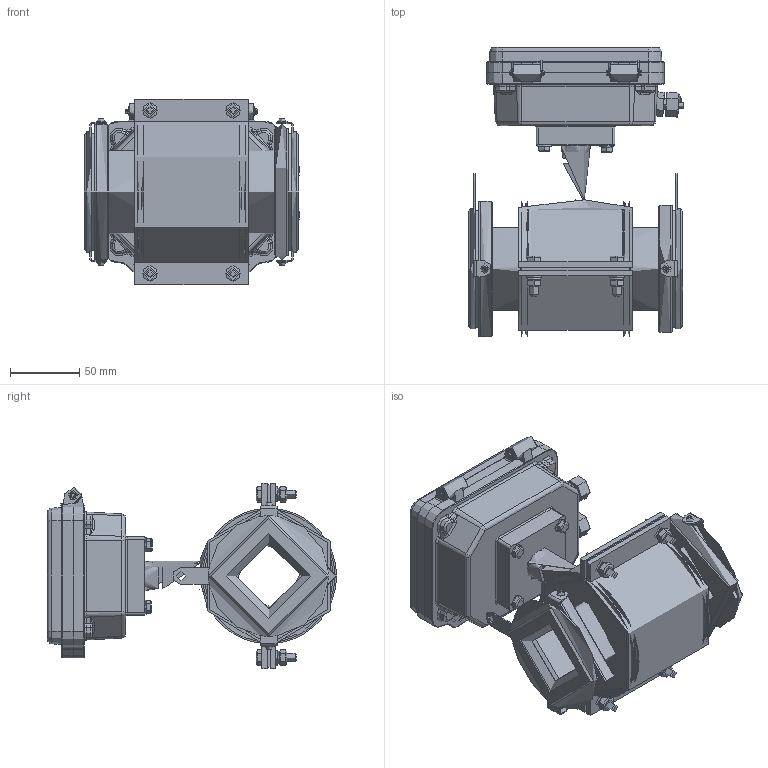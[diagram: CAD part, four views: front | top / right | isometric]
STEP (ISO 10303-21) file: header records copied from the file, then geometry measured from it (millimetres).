
FILE_DESCRIPTION(('STEP AP214'), '1');
FILE_NAME('Âçëåò ÝÌ ÏÐÎÔÈ DN50 Ñýíäâè÷', '', ('UNSPECIFIED'), ('UNSPECIFIED'), 'ASCON STEP Converter 1.6', 'ASCON Math Kernel', '');
FILE_SCHEMA(('AUTOMOTIVE_DESIGN { 1 0 10303 214 3 1 1}'));
Length unit declared in the file: millimetre
Products named in the file (1): 婽挭.407212.031-001.08
Bounding box: 155.67 x 208.94 x 134 mm (x, y, z)
Topology: 5 solids, 10 shells, 1459 faces, 3575 edges, 2179 vertices
Faces by surface type: plane 681, cylinder 420, cone 165, torus 149, bspline 38, sphere 6
Full cylindrical faces by diameter (mm): 0.8 x2, 2 x2, 3 x4, 3.242 x14, 3.3 x2, 4 x14, 5 x1, 5.5 x1, 6 x12, 6.4 x4, 7 x19, 7.5 x2, 8 x4, 10 x4, 11 x4, 12 x8, 12.5 x2, 16.5 x2, 18 x1, 19 x1, 20 x1, 21 x2, 25 x1, 30 x1, 47 x1, 54 x2, 56 x2, 60 x3, 60.5 x2, 85 x2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
Entity records: 73757 total; most frequent: CARTESIAN_POINT 23475, DIRECTION 7217, ORIENTED_EDGE 6508, EDGE_CURVE 3254, AXIS2_PLACEMENT_3D 2820, VERTEX_POINT 2153, EDGE_LOOP 1901, LINE 1577
